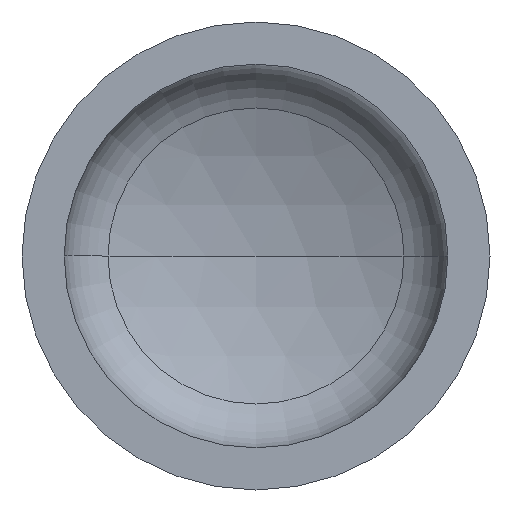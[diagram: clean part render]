
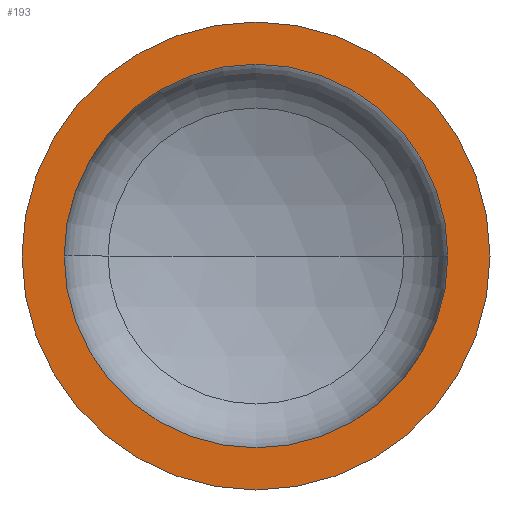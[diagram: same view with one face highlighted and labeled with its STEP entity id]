
A CAD part, front view. The second image highlights one B-rep face of the part: STEP entity #193.
In plain terms, the highlighted planar face has unit normal (0, -1, 0).
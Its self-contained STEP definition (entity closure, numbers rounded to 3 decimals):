
#7 = VERTEX_POINT ( 'NONE', #252 ) ;
#9 = PLANE ( 'NONE',  #47 ) ;
#13 = EDGE_LOOP ( 'NONE', ( #127, #69 ) ) ;
#23 = CARTESIAN_POINT ( 'NONE',  ( 0., 0., 0. ) ) ;
#32 = AXIS2_PLACEMENT_3D ( 'NONE', #398, #391, #174 ) ;
#39 = AXIS2_PLACEMENT_3D ( 'NONE', #23, #45, #40 ) ;
#40 = DIRECTION ( 'NONE',  ( 1., 0., 0. ) ) ;
#45 = DIRECTION ( 'NONE',  ( 0., -1., 0. ) ) ;
#47 = AXIS2_PLACEMENT_3D ( 'NONE', #267, #342, #360 ) ;
#57 = ORIENTED_EDGE ( 'NONE', *, *, #97, .F. ) ;
#62 = AXIS2_PLACEMENT_3D ( 'NONE', #190, #198, #201 ) ;
#63 = AXIS2_PLACEMENT_3D ( 'NONE', #307, #305, #303 ) ;
#68 = VERTEX_POINT ( 'NONE', #246 ) ;
#69 = ORIENTED_EDGE ( 'NONE', *, *, #95, .T. ) ;
#78 = EDGE_LOOP ( 'NONE', ( #57, #87 ) ) ;
#87 = ORIENTED_EDGE ( 'NONE', *, *, #326, .F. ) ;
#95 = EDGE_CURVE ( 'NONE', #153, #7, #169, .T. ) ;
#96 = VERTEX_POINT ( 'NONE', #362 ) ;
#97 = EDGE_CURVE ( 'NONE', #68, #96, #410, .T. ) ;
#127 = ORIENTED_EDGE ( 'NONE', *, *, #310, .T. ) ;
#153 = VERTEX_POINT ( 'NONE', #210 ) ;
#159 = FACE_OUTER_BOUND ( 'NONE', #13, .T. ) ;
#169 = CIRCLE ( 'NONE', #63, 500. ) ;
#174 = DIRECTION ( 'NONE',  ( 1., 0., 0. ) ) ;
#190 = CARTESIAN_POINT ( 'NONE',  ( 0., 0., 0. ) ) ;
#193 = ADVANCED_FACE ( 'NONE', ( #242, #159 ), #9, .F. ) ;
#198 = DIRECTION ( 'NONE',  ( 0., -1., 0. ) ) ;
#201 = DIRECTION ( 'NONE',  ( 1., 0., 0. ) ) ;
#210 = CARTESIAN_POINT ( 'NONE',  ( -500., 0., 0. ) ) ;
#212 = CIRCLE ( 'NONE', #32, 410. ) ;
#242 = FACE_BOUND ( 'NONE', #78, .T. ) ;
#246 = CARTESIAN_POINT ( 'NONE',  ( 410., 0., 0. ) ) ;
#252 = CARTESIAN_POINT ( 'NONE',  ( 500., 0., 0. ) ) ;
#267 = CARTESIAN_POINT ( 'NONE',  ( -500., 0., 0. ) ) ;
#274 = CIRCLE ( 'NONE', #39, 500. ) ;
#303 = DIRECTION ( 'NONE',  ( 1., 0., 0. ) ) ;
#305 = DIRECTION ( 'NONE',  ( 0., -1., 0. ) ) ;
#307 = CARTESIAN_POINT ( 'NONE',  ( 0., 0., 0. ) ) ;
#310 = EDGE_CURVE ( 'NONE', #7, #153, #274, .T. ) ;
#326 = EDGE_CURVE ( 'NONE', #96, #68, #212, .T. ) ;
#342 = DIRECTION ( 'NONE',  ( 0., 1., 0. ) ) ;
#360 = DIRECTION ( 'NONE',  ( -1., 0., 0. ) ) ;
#362 = CARTESIAN_POINT ( 'NONE',  ( -410., 0., 0. ) ) ;
#391 = DIRECTION ( 'NONE',  ( 0., -1., 0. ) ) ;
#398 = CARTESIAN_POINT ( 'NONE',  ( 0., 0., 0. ) ) ;
#410 = CIRCLE ( 'NONE', #62, 410. ) ;
